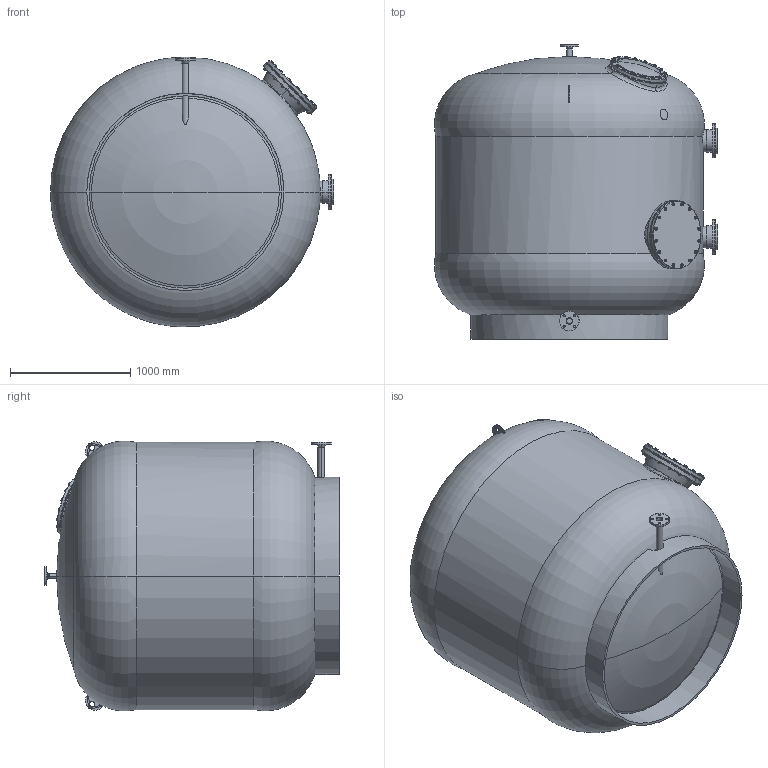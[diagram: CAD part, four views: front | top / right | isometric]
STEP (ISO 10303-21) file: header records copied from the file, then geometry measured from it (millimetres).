
FILE_DESCRIPTION (( 'STEP AP214' ), '1' );
FILE_NAME ('adriatic220c.STEP', '2020-11-04T10:31:33', ( '' ), ( '' ), 'SwSTEP 2.0', 'SolidWorks 2019', '' );
FILE_SCHEMA (( 'AUTOMOTIVE_DESIGN' ));
Length unit declared in the file: millimetre
Products named in the file (1): adriatic220c
Bounding box: 2353.69 x 2449.88 x 2243.39 mm (x, y, z)
Surface area: 44111000.3 mm2 (no closed solid volume)
Topology: 0 solids, 131 shells, 1919 faces, 4264 edges, 2609 vertices
Faces by surface type: cone 621, cylinder 619, plane 580, torus 79, bspline 12, sphere 8
Entity records: 106414 total; most frequent: CARTESIAN_POINT 42836, ORIENTED_EDGE 8380, DIRECTION 8380, EDGE_CURVE 4222, AXIS2_PLACEMENT_3D 3604, VERTEX_POINT 2607, EDGE_LOOP 2311, UNCERTAINTY_MEASURE_WITH_UNIT 2036
